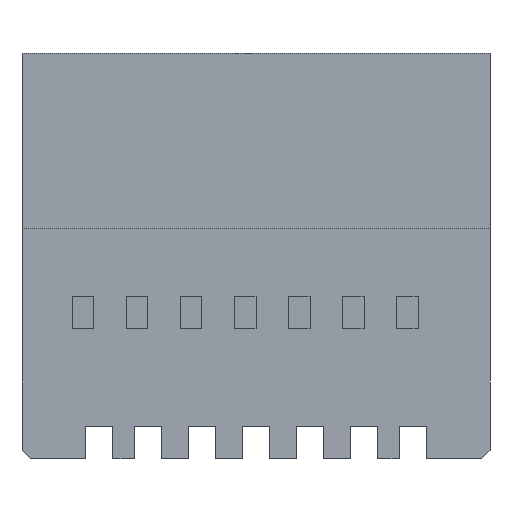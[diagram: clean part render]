
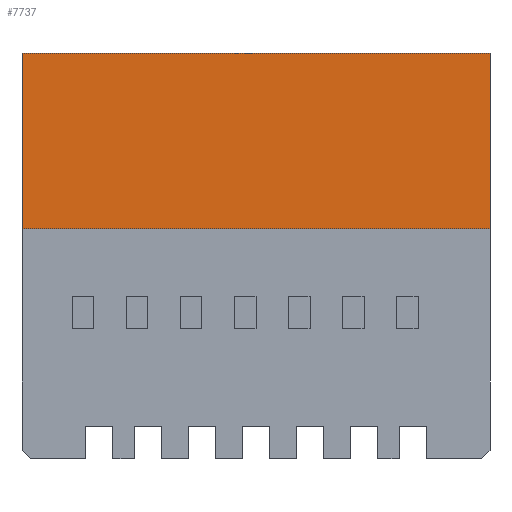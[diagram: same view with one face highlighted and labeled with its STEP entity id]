
A CAD part, front view. The second image highlights one B-rep face of the part: STEP entity #7737.
In plain terms, the highlighted planar face has unit normal (0, -1, 0).
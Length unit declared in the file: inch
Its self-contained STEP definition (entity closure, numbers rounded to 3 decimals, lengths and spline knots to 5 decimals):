
#1553=DIRECTION('',(0.,0.,1.));
#1554=VECTOR('',#1553,0.325);
#1555=CARTESIAN_POINT('',(0.433,-0.169,0.05));
#1556=LINE('',#1555,#1554);
#1705=DIRECTION('',(1.,0.,0.));
#1706=VECTOR('',#1705,0.866);
#1707=CARTESIAN_POINT('',(-0.433,-0.169,0.375));
#1708=LINE('',#1707,#1706);
#2587=DIRECTION('',(1.,0.,0.));
#2588=VECTOR('',#2587,0.866);
#2589=CARTESIAN_POINT('',(-0.433,-0.169,0.05));
#2590=LINE('',#2589,#2588);
#2591=DIRECTION('',(0.,0.,1.));
#2592=VECTOR('',#2591,0.325);
#2593=CARTESIAN_POINT('',(-0.433,-0.169,0.05));
#2594=LINE('',#2593,#2592);
#3351=CARTESIAN_POINT('',(-0.433,-0.169,0.375));
#3352=CARTESIAN_POINT('',(0.433,-0.169,0.375));
#3353=VERTEX_POINT('',#3351);
#3354=VERTEX_POINT('',#3352);
#3359=CARTESIAN_POINT('',(-0.433,-0.169,0.05));
#3361=VERTEX_POINT('',#3359);
#3363=CARTESIAN_POINT('',(0.433,-0.169,0.05));
#3364=VERTEX_POINT('',#3363);
#7725=CARTESIAN_POINT('',(-0.433,-0.169,-0.375));
#7726=DIRECTION('',(0.,-1.,0.));
#7727=DIRECTION('',(1.,0.,0.));
#7728=AXIS2_PLACEMENT_3D('',#7725,#7726,#7727);
#7729=PLANE('',#7728);
#7731=ORIENTED_EDGE('',*,*,#7730,.F.);
#7732=ORIENTED_EDGE('',*,*,#7329,.T.);
#7733=ORIENTED_EDGE('',*,*,#6502,.T.);
#7734=ORIENTED_EDGE('',*,*,#6398,.F.);
#7735=EDGE_LOOP('',(#7731,#7732,#7733,#7734));
#7736=FACE_OUTER_BOUND('',#7735,.F.);
#7737=ADVANCED_FACE('',(#7736),#7729,.T.);
#6398=EDGE_CURVE('',#3364,#3354,#1556,.T.);
#6502=EDGE_CURVE('',#3353,#3354,#1708,.T.);
#7329=EDGE_CURVE('',#3361,#3353,#2594,.T.);
#7730=EDGE_CURVE('',#3361,#3364,#2590,.T.);
